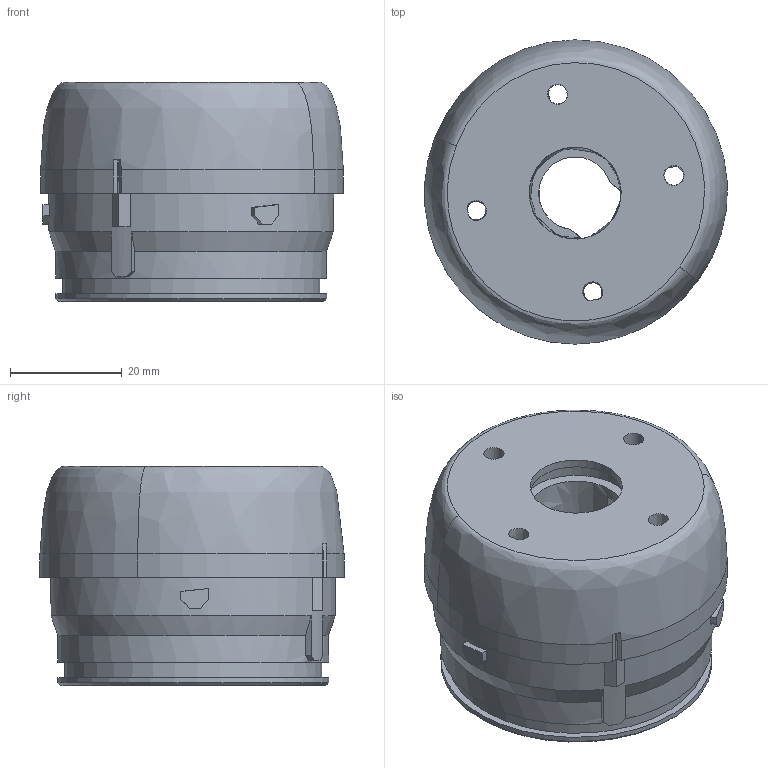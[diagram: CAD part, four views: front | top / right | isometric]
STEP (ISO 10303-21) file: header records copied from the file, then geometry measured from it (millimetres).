
FILE_DESCRIPTION (( 'STEP AP214' ), '1' );
FILE_NAME ('28250010000 - BR50-BC_Base Module.STEP', '2015-02-20T09:31:13', ( '' ), ( '' ), 'SwSTEP 2.0', 'SolidWorks 2012', '' );
FILE_SCHEMA (( 'AUTOMOTIVE_DESIGN' ));
Length unit declared in the file: millimetre
Products named in the file (1): 28250010000 - BR50-BC_Base Module
Bounding box: 54.18 x 54.45 x 39.2 mm (x, y, z)
Surface area: 22164.7 mm2 (no closed solid volume)
Topology: 0 solids, 10 shells, 268 faces, 1126 edges, 831 vertices
Faces by surface type: plane 222, bspline 28, cylinder 9, cone 9
Full cylindrical faces by diameter (mm): 20 x1, 48.5 x2, 51 x1
Entity records: 14420 total; most frequent: CARTESIAN_POINT 2834, DIRECTION 1643, ORIENTED_EDGE 1597, EDGE_CURVE 1098, LINE 839, VECTOR 839, VERTEX_POINT 823, AXIS2_PLACEMENT_3D 402
